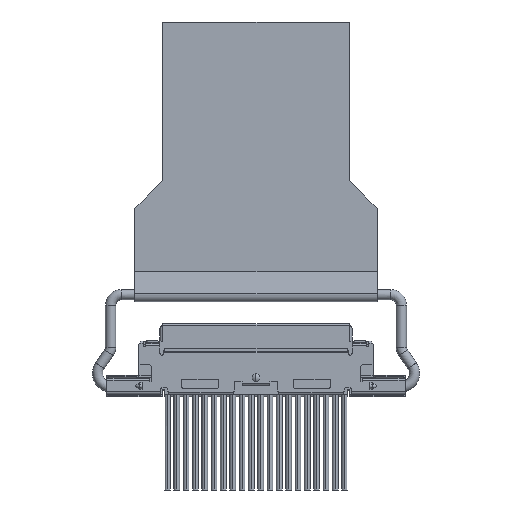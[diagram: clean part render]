
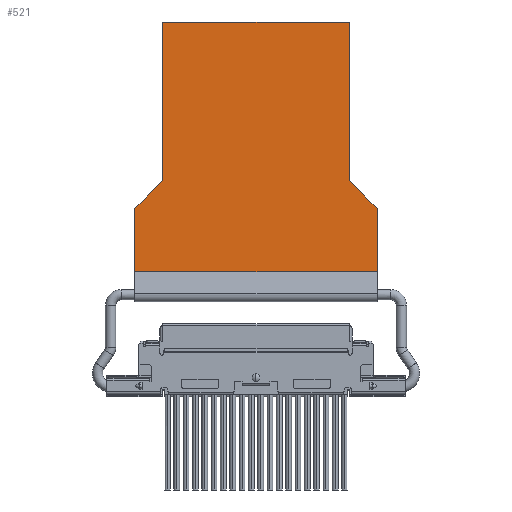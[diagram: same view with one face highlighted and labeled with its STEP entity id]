
A CAD part, front view. The second image highlights one B-rep face of the part: STEP entity #521.
In plain terms, the highlighted planar face has unit normal (0, -1, 0).
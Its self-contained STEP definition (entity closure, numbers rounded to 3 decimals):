
#521 = ADVANCED_FACE ( 'NONE', ( #9265 ), #9266, .F. ) ;
#2954 = EDGE_LOOP ( 'NONE', ( #32584, #32585, #32586, #32587, #32588, #32589, #32590, #32591 ) ) ;
#4998 = CARTESIAN_POINT ( 'NONE',  ( -6.5, 0.35, 7.505 ) ) ;
#9257 = CARTESIAN_POINT ( 'NONE',  ( 6.5, 0.35, 9.005 ) ) ;
#9265 = FACE_OUTER_BOUND ( 'NONE', #2954, .T. ) ;
#9266 = PLANE ( 'NONE',  #30441 ) ;
#9268 = DIRECTION ( 'NONE',  ( 0., 1., 0. ) ) ;
#9269 = DIRECTION ( 'NONE',  ( 0., 0., 1. ) ) ;
#15920 = VERTEX_POINT ( 'NONE', #29769 ) ;
#15940 = VERTEX_POINT ( 'NONE', #29789 ) ;
#16544 = LINE ( 'NONE', #16560, #35451 ) ;
#16556 = LINE ( 'NONE', #16584, #35453 ) ;
#16560 = CARTESIAN_POINT ( 'NONE',  ( 5., 0.35, 9.005 ) ) ;
#16562 = LINE ( 'NONE', #16602, #35456 ) ;
#16564 = DIRECTION ( 'NONE',  ( 0.707, 0., -0.707 ) ) ;
#16578 = LINE ( 'NONE', #16620, #35459 ) ;
#16584 = CARTESIAN_POINT ( 'NONE',  ( 5., 0.35, 17.505 ) ) ;
#16587 = DIRECTION ( 'NONE',  ( 0., 0., -1. ) ) ;
#16602 = CARTESIAN_POINT ( 'NONE',  ( -5., 0.35, 17.505 ) ) ;
#16605 = DIRECTION ( 'NONE',  ( 1., 0., 0. ) ) ;
#16620 = CARTESIAN_POINT ( 'NONE',  ( -5., 0.35, 9.005 ) ) ;
#16623 = DIRECTION ( 'NONE',  ( 0., 0., 1. ) ) ;
#16636 = LINE ( 'NONE', #16639, #35465 ) ;
#16639 = CARTESIAN_POINT ( 'NONE',  ( -6.5, 0.35, 7.505 ) ) ;
#16641 = DIRECTION ( 'NONE',  ( 0.707, 0., 0.707 ) ) ;
#17034 = CARTESIAN_POINT ( 'NONE',  ( 5., 0.35, 9.005 ) ) ;
#17071 = CARTESIAN_POINT ( 'NONE',  ( -5., 0.35, 17.505 ) ) ;
#17075 = CARTESIAN_POINT ( 'NONE',  ( -5., 0.35, 9.005 ) ) ;
#17205 = LINE ( 'NONE', #17209, #23322 ) ;
#17209 = CARTESIAN_POINT ( 'NONE',  ( 6.5, 0.35, 4.116 ) ) ;
#17211 = DIRECTION ( 'NONE',  ( -1., 0., 0. ) ) ;
#17219 = LINE ( 'NONE', #17222, #23324 ) ;
#17222 = CARTESIAN_POINT ( 'NONE',  ( 6.5, 0.35, 9.005 ) ) ;
#17224 = DIRECTION ( 'NONE',  ( 0., 0., -1. ) ) ;
#17226 = LINE ( 'NONE', #17230, #23325 ) ;
#17230 = CARTESIAN_POINT ( 'NONE',  ( -6.5, 0.35, 9.005 ) ) ;
#17232 = DIRECTION ( 'NONE',  ( 0., 0., -1. ) ) ;
#19981 = EDGE_CURVE ( 'NONE', #20175, #20467, #16544, .T. ) ;
#19985 = EDGE_CURVE ( 'NONE', #20478, #20175, #16556, .T. ) ;
#19988 = EDGE_CURVE ( 'NONE', #20197, #20478, #16562, .T. ) ;
#19991 = EDGE_CURVE ( 'NONE', #20199, #20197, #16578, .T. ) ;
#19994 = EDGE_CURVE ( 'NONE', #21234, #20199, #16636, .T. ) ;
#20175 = VERTEX_POINT ( 'NONE', #17034 ) ;
#20197 = VERTEX_POINT ( 'NONE', #17071 ) ;
#20199 = VERTEX_POINT ( 'NONE', #17075 ) ;
#20467 = VERTEX_POINT ( 'NONE', #23654 ) ;
#20478 = VERTEX_POINT ( 'NONE', #23665 ) ;
#21234 = VERTEX_POINT ( 'NONE', #4998 ) ;
#23322 = VECTOR ( 'NONE', #17211, 1000. ) ;
#23324 = VECTOR ( 'NONE', #17224, 1000. ) ;
#23325 = VECTOR ( 'NONE', #17232, 1000. ) ;
#23654 = CARTESIAN_POINT ( 'NONE',  ( 6.5, 0.35, 7.505 ) ) ;
#23665 = CARTESIAN_POINT ( 'NONE',  ( 5., 0.35, 17.505 ) ) ;
#29769 = CARTESIAN_POINT ( 'NONE',  ( 6.5, 0.35, 4.116 ) ) ;
#29789 = CARTESIAN_POINT ( 'NONE',  ( -6.5, 0.35, 4.116 ) ) ;
#30441 = AXIS2_PLACEMENT_3D ( 'NONE', #9257, #9268, #9269 ) ;
#32584 = ORIENTED_EDGE ( 'NONE', *, *, #37028, .F. ) ;
#32585 = ORIENTED_EDGE ( 'NONE', *, *, #19981, .F. ) ;
#32586 = ORIENTED_EDGE ( 'NONE', *, *, #19985, .F. ) ;
#32587 = ORIENTED_EDGE ( 'NONE', *, *, #19988, .F. ) ;
#32588 = ORIENTED_EDGE ( 'NONE', *, *, #19991, .F. ) ;
#32589 = ORIENTED_EDGE ( 'NONE', *, *, #19994, .F. ) ;
#32590 = ORIENTED_EDGE ( 'NONE', *, *, #37029, .T. ) ;
#32591 = ORIENTED_EDGE ( 'NONE', *, *, #37026, .F. ) ;
#35451 = VECTOR ( 'NONE', #16564, 1000. ) ;
#35453 = VECTOR ( 'NONE', #16587, 1000. ) ;
#35456 = VECTOR ( 'NONE', #16605, 1000. ) ;
#35459 = VECTOR ( 'NONE', #16623, 1000. ) ;
#35465 = VECTOR ( 'NONE', #16641, 1000. ) ;
#37026 = EDGE_CURVE ( 'NONE', #15920, #15940, #17205, .T. ) ;
#37028 = EDGE_CURVE ( 'NONE', #20467, #15920, #17219, .T. ) ;
#37029 = EDGE_CURVE ( 'NONE', #21234, #15940, #17226, .T. ) ;
